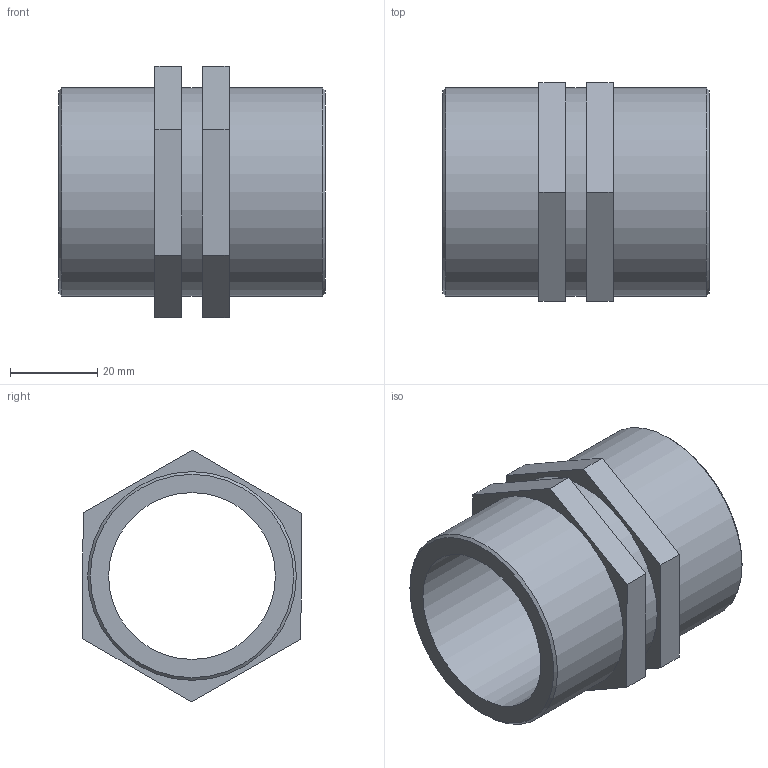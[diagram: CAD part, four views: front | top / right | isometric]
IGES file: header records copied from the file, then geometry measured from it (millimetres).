
Global section: file name: 050607015_0506070150A.ipt; native system: Autodesk Inventor 2015; preprocessor: unknown; author: KIM; date: 20170618.093258; units: millimetre
Bounding box: 61 x 50.08 x 57.73 mm (x, y, z)
Volume: 43875 mm3; surface area: 19435.7 mm2
Topology: 1 solids, 1 shells, 24 faces, 54 edges, 36 vertices
Faces by surface type: plane 18, cylinder 3, cone 2, revolution 1
Full cylindrical faces by diameter (mm): 47.803 x3
